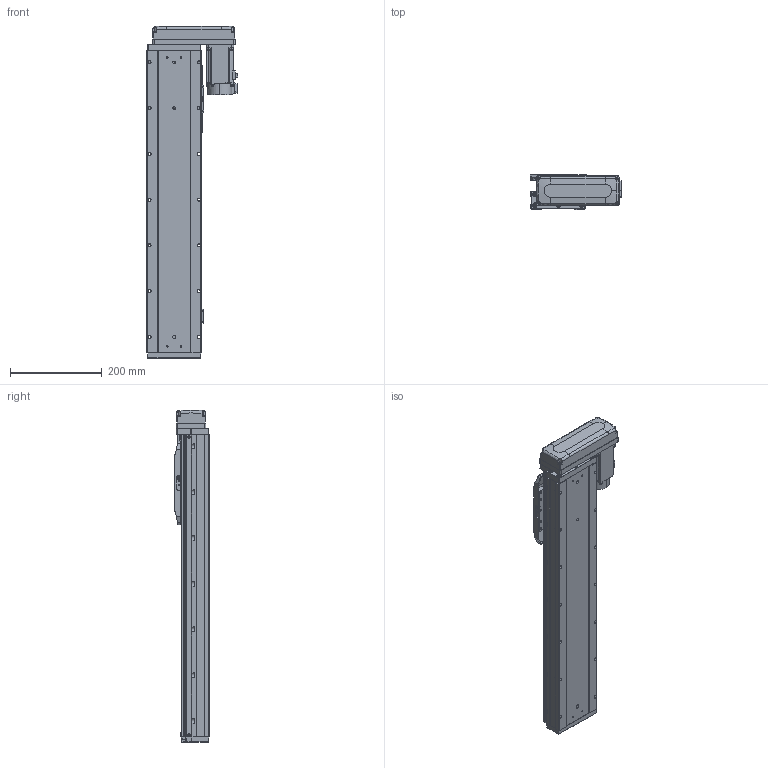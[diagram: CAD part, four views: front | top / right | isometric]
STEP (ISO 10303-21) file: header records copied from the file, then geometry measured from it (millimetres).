
FILE_DESCRIPTION (( 'STEP AP203' ), '1' );
FILE_NAME ('GTH12-450-BL-M40-C4.step', '2023-07-04T10:40:35', ( '微软用户' ), ( '微软中国' ), 'SwSTEP 2.0', 'SolidWorks 2020', '' );
FILE_SCHEMA (( 'CONFIG_CONTROL_DESIGN' ));
Length unit declared in the file: millimetre
Products named in the file (18): CTHA86-033_M40B; GTH120-006; GTH80-028; GTH120-027-1_GTH120-027-2; GTH120-004; GTH50-023; GTH12-450-BL-M40-C4; GTH120-013; GTH50-024; GBT 70.1-M3℅6; GBT96.1-2002 3×0.8; GBT 70.1-M5×16; BTH-M3X5X6; GTH120-001_450; GBT 70.3-M3℅8; hg-kn43j_-s100_; GTH120-003; GTH80-022
Assembly tree (59 placements, depth 2):
  GTH12-450-BL-M40-C4
    GTH120-001_450
    GTH120-003
    GTH120-006
    GTH120-004
    GTH120-013
    GBT 70.1-M3℅6  x14
    GBT 70.1-M5×16  x10
    GBT 70.3-M3℅8  x4
    GTH80-022
    GTH80-028  x2
    GTH50-023  x3
    GTH50-024  x3
    GBT96.1-2002 3×0.8  x6
    BTH-M3X5X6  x8
    hg-kn43j_-s100_
    CTHA86-033_M40B
    GTH120-027-1_GTH120-027-2
Bounding box: 199.8 x 76 x 725.5 mm (x, y, z)
Volume: 5584028.7 mm3; surface area: 552652.3 mm2
Topology: 61 solids, 61 shells, 2405 faces, 5594 edges, 3431 vertices
Faces by surface type: plane 1246, cylinder 687, cone 284, torus 174, sphere 8, bspline 6
Entity records: 44380 total; most frequent: CARTESIAN_POINT 7516, DIRECTION 7326, ORIENTED_EDGE 6798, EDGE_CURVE 3399, AXIS2_PLACEMENT_3D 2562, LINE 2202, VECTOR 2202, VERTEX_POINT 2152
